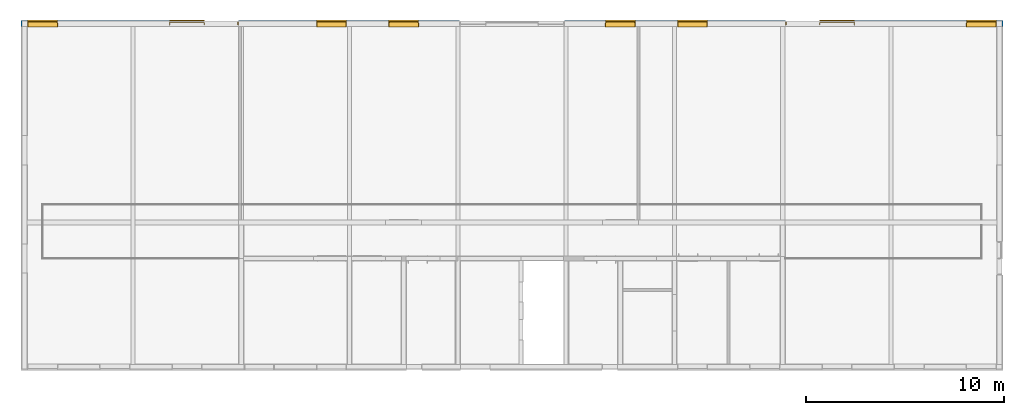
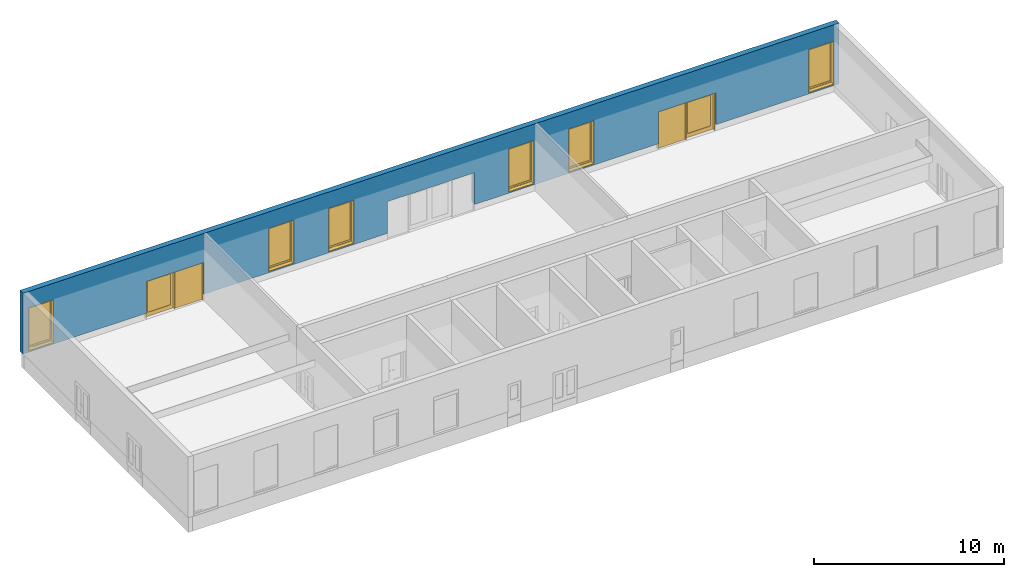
# One storey, part 12 of 22: 6 windows, 2 doors, 1 wall, 9 openings.
"""IFC4X3 building model written with IfcOpenShell, lengths in millimetres."""

from ifc_helpers import new_model, entity, si_unit, converted_unit, derived_unit, direction, frame, frame_2d, origin, origin_2d_with_axis, place, context, subcontext, project, spatial, polyline, rectangle, outline, extrude, faceted_brep, source, transform, mapped, material, layer, layer_set, constituent, constituent_set, type_object, type_shapes, element, fill, save


model = new_model("IFC4X3")

# Units and contexts
model_context = context("Model", 3, precision=0.01, world=origin(), true_north=direction((6.12303176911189e-17, 1.0)))
body_context = subcontext(model_context, "Body", "Model", "MODEL_VIEW")
ifc_project = project(units=[si_unit("LENGTHUNIT", "METRE", prefix="MILLI"), si_unit("AREAUNIT", "SQUARE_METRE"), si_unit("VOLUMEUNIT", "CUBIC_METRE"), converted_unit("PLANEANGLEUNIT", "DEGREE", entity("IfcPlaneAngleMeasure", 0.0174532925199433), si_unit("PLANEANGLEUNIT", "RADIAN"), dimensions=[0, 0, 0, 0, 0, 0, 0]), si_unit("MASSUNIT", "GRAM", prefix="KILO"), derived_unit("MASSDENSITYUNIT", [(si_unit("MASSUNIT", "GRAM", prefix="KILO"), 1), (si_unit("LENGTHUNIT", "METRE"), -3)]), derived_unit("IONCONCENTRATIONUNIT", [(si_unit("MASSUNIT", "GRAM", prefix="KILO"), 1), (si_unit("LENGTHUNIT", "METRE"), -3)]), derived_unit("MOMENTOFINERTIAUNIT", [(si_unit("LENGTHUNIT", "METRE"), 4)]), si_unit("TIMEUNIT", "SECOND"), si_unit("FREQUENCYUNIT", "HERTZ"), si_unit("THERMODYNAMICTEMPERATUREUNIT", "DEGREE_CELSIUS"), derived_unit("THERMALTRANSMITTANCEUNIT", [(si_unit("MASSUNIT", "GRAM", prefix="KILO"), 1), (si_unit("THERMODYNAMICTEMPERATUREUNIT", "KELVIN"), -1), (si_unit("TIMEUNIT", "SECOND"), -3)]), derived_unit("THERMALCONDUCTANCEUNIT", [(si_unit("MASSUNIT", "GRAM", prefix="KILO"), 1), (si_unit("THERMODYNAMICTEMPERATUREUNIT", "KELVIN"), -1), (si_unit("TIMEUNIT", "SECOND"), -3), (si_unit("LENGTHUNIT", "METRE"), 1)]), derived_unit("VOLUMETRICFLOWRATEUNIT", [(si_unit("LENGTHUNIT", "METRE", prefix="DECI"), 3), (si_unit("TIMEUNIT", "SECOND"), -1)]), derived_unit("MASSFLOWRATEUNIT", [(si_unit("MASSUNIT", "GRAM", prefix="KILO"), 1), (si_unit("TIMEUNIT", "SECOND"), -1)]), derived_unit("ROTATIONALFREQUENCYUNIT", [(si_unit("TIMEUNIT", "SECOND"), -1)]), si_unit("ELECTRICCURRENTUNIT", "AMPERE"), si_unit("ELECTRICVOLTAGEUNIT", "VOLT"), si_unit("POWERUNIT", "WATT"), si_unit("FORCEUNIT", "NEWTON", prefix="KILO"), si_unit("ILLUMINANCEUNIT", "LUX"), si_unit("LUMINOUSFLUXUNIT", "LUMEN"), si_unit("LUMINOUSINTENSITYUNIT", "CANDELA"), si_unit("ENERGYUNIT", "JOULE"), derived_unit("USERDEFINED", [(si_unit("MASSUNIT", "GRAM", prefix="KILO"), -1), (si_unit("LENGTHUNIT", "METRE"), -2), (si_unit("TIMEUNIT", "SECOND"), 3), (si_unit("LUMINOUSFLUXUNIT", "LUMEN"), 1)]), derived_unit("USERDEFINED", [(si_unit("MASSUNIT", "GRAM", prefix="KILO"), 1), (si_unit("TIMEUNIT", "SECOND"), -3), (si_unit("LENGTHUNIT", "METRE"), 3), (si_unit("ELECTRICCURRENTUNIT", "AMPERE"), -2)]), derived_unit("SOUNDPOWERUNIT", [(si_unit("MASSUNIT", "GRAM", prefix="KILO"), 1), (si_unit("TIMEUNIT", "SECOND"), -3), (si_unit("LENGTHUNIT", "METRE"), 2)]), derived_unit("SOUNDPRESSUREUNIT", [(si_unit("MASSUNIT", "GRAM", prefix="KILO"), 1), (si_unit("LENGTHUNIT", "METRE"), -1), (si_unit("TIMEUNIT", "SECOND"), -2)]), derived_unit("LINEARVELOCITYUNIT", [(si_unit("LENGTHUNIT", "METRE"), 1), (si_unit("TIMEUNIT", "SECOND"), -1)]), si_unit("PRESSUREUNIT", "PASCAL"), derived_unit("USERDEFINED", [(si_unit("MASSUNIT", "GRAM", prefix="KILO"), 1), (si_unit("LENGTHUNIT", "METRE"), -2), (si_unit("TIMEUNIT", "SECOND"), -2)]), derived_unit("LINEARFORCEUNIT", [(si_unit("MASSUNIT", "GRAM", prefix="KILO"), 1), (si_unit("TIMEUNIT", "SECOND"), -2)]), derived_unit("PLANARFORCEUNIT", [(si_unit("MASSUNIT", "GRAM", prefix="KILO"), 1), (si_unit("LENGTHUNIT", "METRE"), -1), (si_unit("TIMEUNIT", "SECOND"), -2)]), derived_unit("SPECIFICHEATCAPACITYUNIT", [(si_unit("THERMODYNAMICTEMPERATUREUNIT", "KELVIN"), -1), (si_unit("LENGTHUNIT", "METRE"), 2), (si_unit("TIMEUNIT", "SECOND"), -2)]), derived_unit("HEATFLUXDENSITYUNIT", [(si_unit("MASSUNIT", "GRAM", prefix="KILO"), 1), (si_unit("TIMEUNIT", "SECOND"), -3)]), derived_unit("HEATINGVALUEUNIT", [(si_unit("LENGTHUNIT", "METRE"), 2), (si_unit("TIMEUNIT", "SECOND"), -2)]), derived_unit("VAPORPERMEABILITYUNIT", [(si_unit("LENGTHUNIT", "METRE"), -1), (si_unit("TIMEUNIT", "SECOND"), 1)]), derived_unit("DYNAMICVISCOSITYUNIT", [(si_unit("MASSUNIT", "GRAM", prefix="KILO"), 1), (si_unit("TIMEUNIT", "SECOND"), -1), (si_unit("LENGTHUNIT", "METRE"), -1)]), derived_unit("THERMALEXPANSIONCOEFFICIENTUNIT", [(si_unit("THERMODYNAMICTEMPERATUREUNIT", "KELVIN"), -1)]), derived_unit("MODULUSOFELASTICITYUNIT", [(si_unit("MASSUNIT", "GRAM", prefix="KILO"), 1), (si_unit("LENGTHUNIT", "METRE"), -1), (si_unit("TIMEUNIT", "SECOND"), -2)]), derived_unit("ISOTHERMALMOISTURECAPACITYUNIT", [(si_unit("MASSUNIT", "GRAM", prefix="KILO"), -1), (si_unit("LENGTHUNIT", "METRE"), 3)]), derived_unit("MOISTUREDIFFUSIVITYUNIT", [(si_unit("TIMEUNIT", "SECOND"), -1), (si_unit("LENGTHUNIT", "METRE"), 2)]), derived_unit("AREADENSITYUNIT", [(si_unit("MASSUNIT", "GRAM", prefix="KILO"), 1), (si_unit("LENGTHUNIT", "METRE"), 2)]), derived_unit("MASSPERLENGTHUNIT", [(si_unit("MASSUNIT", "GRAM", prefix="KILO"), 1), (si_unit("LENGTHUNIT", "METRE"), -1)]), derived_unit("THERMALRESISTANCEUNIT", [(si_unit("MASSUNIT", "GRAM", prefix="KILO"), -1), (si_unit("TIMEUNIT", "SECOND"), 3), (si_unit("THERMODYNAMICTEMPERATUREUNIT", "KELVIN"), 1)]), derived_unit("ACCELERATIONUNIT", [(si_unit("LENGTHUNIT", "METRE"), 1), (si_unit("TIMEUNIT", "SECOND"), -2)]), derived_unit("ANGULARVELOCITYUNIT", [(si_unit("TIMEUNIT", "SECOND"), -1), (si_unit("PLANEANGLEUNIT", "RADIAN"), 1)]), derived_unit("LINEARSTIFFNESSUNIT", [(si_unit("MASSUNIT", "GRAM", prefix="KILO"), 1), (si_unit("TIMEUNIT", "SECOND"), -2)]), derived_unit("WARPINGCONSTANTUNIT", [(si_unit("LENGTHUNIT", "METRE"), 6)]), derived_unit("LINEARMOMENTUNIT", [(si_unit("MASSUNIT", "GRAM", prefix="KILO"), 1), (si_unit("LENGTHUNIT", "METRE"), 1), (si_unit("TIMEUNIT", "SECOND"), -2)]), derived_unit("TORQUEUNIT", [(si_unit("MASSUNIT", "GRAM", prefix="KILO"), 1), (si_unit("LENGTHUNIT", "METRE"), 2), (si_unit("TIMEUNIT", "SECOND"), -2)])], contexts=[model_context])

# Site, building, storey
site_placement = place(None, origin())
site = spatial("IfcSite", under=ifc_project, at=site_placement, Name="Default", CompositionType="ELEMENT")
building_placement = place(site_placement, origin())
building = spatial("IfcBuilding", under=site, at=building_placement, Name="事務所ビル", CompositionType="ELEMENT")
storey_placement = place(building_placement, origin())
storey = spatial("IfcBuildingStorey", under=building, at=storey_placement, Name="1FL", CompositionType="ELEMENT", Elevation=0.0)

# Wall, openings, windows, doors
ifc_material_1 = material(Name="<Unnamed>")
ifc_layer_1 = layer(ifc_material_1, 46.0, Name="Layer")
ifc_material_2 = material(Name="合板", Category="一般")
ifc_layer_2 = layer(ifc_material_2, 12.0, Name="合板", Category="一般")
ifc_material_3 = material(Name="天然木材", Category="一般")
ifc_layer_3 = layer(ifc_material_3, 240.0, Name="天然木材", Category="一般")
ifc_layer_4 = layer(ifc_material_2, 12.0, Name="合板", Category="一般")
ifc_material_4 = material(Name="せっこうボード", Category="一般")
ifc_layer_5 = layer(ifc_material_4, 15.0, Name="せっこうボード", Category="一般")
ifc_layer_set = layer_set([ifc_layer_1, ifc_layer_2, ifc_layer_3, ifc_layer_4, ifc_layer_5], Name="標準壁:外装材46_構造用合板12_木240_構造用合板12_GB-R15")
wall_type = type_object("IfcWallType", Name="標準壁:外装材46_構造用合板12_木240_構", PredefinedType="STANDARD", material=ifc_layer_set)
wall_placement = place(storey_placement, frame((-178.0, 17305.4999999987, 400.0)))
wall = element("IfcWall", 1, at=wall_placement, inside=storey, type_object=wall_type, material=ifc_layer_set, Name="標準壁:外装材46_構造用合板12_木240_構造用合板12_GB-R15", ObjectType="標準壁:外装材46_構造用合板12_木240_構造用合板12_GB-R15", PredefinedType="NOTDEFINED", context=body_context, shape_type="SweptSolid", body=[
    extrude(rectangle(XDim=49496.0, YDim=325.0, at=frame_2d((24748.0, 0.0), x_axis=(1.0, 0.0))), origin(), (0.0, 0.0, 1.0), 3900.0),
])
opening_1_placement = place(wall_placement, frame((178.0, -17305.4999999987, -400.0)))
element("IfcOpeningElement", 2, at=opening_1_placement, cuts=wall, Name="標準壁:外装材46_構造用合板12_木240_構造用合板12_GB-R15", PredefinedType="OPENING", context=body_context, shape_type="SweptSolid", body=[
    extrude(rectangle(XDim=2440.00000000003, YDim=5280.0, at=frame_2d((2.04636307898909e-12, 0.0), x_axis=(0.0, 1.0))), frame((24570.0, 15631.0, 1220.0), z_axis=(0.0, 1.0, 0.0), x_axis=(-1.0, 0.0, 0.0)), (0.0, 0.0, 1.0), 3048.0),
])
opening_2_placement = place(wall_placement, frame((178.0, -17305.4999999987, 120.0)))
opening_2 = element("IfcOpeningElement", 3, at=opening_2_placement, cuts=wall, Name="標準壁:外装材46_構造用合板12_木240_構造用合板12_GB-R15", PredefinedType="OPENING", context=body_context, shape_type="Brep", body=[
    faceted_brep([(145.0, 17133.0, -35.0), (145.0, 17133.0, 2735.0), (145.0, 17338.0, 2735.0), (145.0, 17338.0, -35.0), (1675.0, 17133.0, -35.0), (1675.0, 17338.0, -35.0), (1675.0, 17338.0, 2735.0), (1675.0, 17133.0, 2735.0), (1665.0, 17338.0, -35.0), (1665.0, 17338.0, 2730.0), (155.0, 17338.0, 2730.0), (155.0, 17338.0, -35.0), (155.0, 17408.0, 2730.0), (155.0, 17408.0, -115.769230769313), (155.0, 17338.0, -105.0), (1665.0, 17338.0, -105.0), (1665.0, 17408.0, -115.769230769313), (1665.0, 17408.0, 2730.0), (175.0, 17408.0, -115.769230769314), (175.0, 17468.0, -125.0), (1645.0, 17468.0, -125.0), (1645.0, 17408.0, -115.769230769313), (1645.0, 17408.0, 2710.0), (175.0, 17408.0, 2710.0), (175.0, 17468.0, 2710.0), (1645.0, 17468.0, 2710.0)], [[[0, 1, 2, 3]], [[4, 5, 6, 7]], [[1, 0, 4, 7]], [[2, 1, 7, 6]], [[3, 2, 6, 5, 8, 9, 10, 11]], [[0, 3, 11, 8, 5, 4]], [[10, 12, 13, 14, 11]], [[15, 16, 17, 9, 8]], [[14, 13, 18, 19, 20, 21, 16, 15]], [[13, 12, 17, 16, 21, 22, 23, 18]], [[23, 24, 19, 18]], [[21, 20, 25, 22]], [[19, 24, 25, 20]], [[24, 23, 22, 25]], [[12, 10, 9, 17]], [[14, 15, 8, 11]]]),
])
opening_3_placement = place(wall_placement, frame((178.0, -17305.4999999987, 120.0)))
opening_3 = element("IfcOpeningElement", 4, at=opening_3_placement, cuts=wall, Name="標準壁:外装材46_構造用合板12_木240_構造用合板12_GB-R15", PredefinedType="OPENING", context=body_context, shape_type="Brep", body=[
    faceted_brep([(14705.0, 17133.0, -35.0), (14705.0, 17133.0, 2735.0), (14705.0, 17338.0, 2735.0), (14705.0, 17338.0, -35.0), (16235.0, 17133.0, -35.0), (16235.0, 17338.0, -35.0), (16235.0, 17338.0, 2735.0), (16235.0, 17133.0, 2735.0), (14715.0, 17338.0, -35.0), (16225.0, 17338.0, -35.0), (16225.0, 17338.0, 2730.0), (14715.0, 17338.0, 2730.0), (14715.0, 17408.0, 2730.0), (14715.0, 17408.0, -115.769230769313), (14715.0, 17338.0, -105.0), (16225.0, 17338.0, -105.0), (16225.0, 17408.0, -115.769230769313), (16225.0, 17408.0, 2730.0), (14735.0, 17408.0, -115.769230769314), (14735.0, 17468.0, -125.0), (16205.0, 17468.0, -125.0), (16205.0, 17408.0, -115.769230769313), (16205.0, 17408.0, 2710.0), (14735.0, 17408.0, 2710.0), (14735.0, 17468.0, 2710.0), (16205.0, 17468.0, 2710.0)], [[[0, 1, 2, 3]], [[4, 5, 6, 7]], [[0, 3, 8, 9, 5, 4]], [[3, 2, 6, 5, 9, 10, 11, 8]], [[2, 1, 7, 6]], [[1, 0, 4, 7]], [[11, 12, 13, 14, 8]], [[15, 16, 17, 10, 9]], [[14, 13, 18, 19, 20, 21, 16, 15]], [[13, 12, 17, 16, 21, 22, 23, 18]], [[12, 11, 10, 17]], [[14, 15, 9, 8]], [[23, 24, 19, 18]], [[21, 20, 25, 22]], [[19, 24, 25, 20]], [[24, 23, 22, 25]]]),
])
opening_4_placement = place(wall_placement, frame((178.0, -17305.4999999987, 120.0)))
opening_4 = element("IfcOpeningElement", 5, at=opening_4_placement, cuts=wall, Name="標準壁:外装材46_構造用合板12_木240_構造用合板12_GB-R15", PredefinedType="OPENING", context=body_context, shape_type="Brep", body=[
    faceted_brep([(18345.0, 17133.0, -35.0), (18345.0, 17133.0, 2735.0), (18345.0, 17338.0, 2735.0), (18345.0, 17338.0, -35.0), (19875.0, 17133.0, -35.0), (19875.0, 17338.0, -35.0), (19875.0, 17338.0, 2735.0), (19875.0, 17133.0, 2735.0), (18355.0, 17338.0, -35.0), (19865.0, 17338.0, -35.0), (19865.0, 17338.0, 2730.0), (18355.0, 17338.0, 2730.0), (18355.0, 17408.0, 2730.0), (18355.0, 17408.0, -115.769230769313), (18355.0, 17338.0, -105.0), (19865.0, 17338.0, -105.0), (19865.0, 17408.0, -115.769230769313), (19865.0, 17408.0, 2730.0), (18375.0, 17408.0, -115.769230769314), (18375.0, 17468.0, -125.0), (19845.0, 17468.0, -125.0), (19845.0, 17408.0, -115.769230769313), (19845.0, 17408.0, 2710.0), (18375.0, 17408.0, 2710.0), (18375.0, 17468.0, 2710.0), (19845.0, 17468.0, 2710.0)], [[[0, 1, 2, 3]], [[4, 5, 6, 7]], [[0, 3, 8, 9, 5, 4]], [[3, 2, 6, 5, 9, 10, 11, 8]], [[2, 1, 7, 6]], [[1, 0, 4, 7]], [[11, 12, 13, 14, 8]], [[15, 16, 17, 10, 9]], [[14, 13, 18, 19, 20, 21, 16, 15]], [[13, 12, 17, 16, 21, 22, 23, 18]], [[12, 11, 10, 17]], [[14, 15, 9, 8]], [[23, 24, 19, 18]], [[21, 20, 25, 22]], [[19, 24, 25, 20]], [[24, 23, 22, 25]]]),
])
opening_5_placement = place(wall_placement, frame((178.0, -17305.4999999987, 120.0)))
opening_5 = element("IfcOpeningElement", 6, at=opening_5_placement, cuts=wall, Name="標準壁:外装材46_構造用合板12_木240_構造用合板12_GB-R15", PredefinedType="OPENING", context=body_context, shape_type="Brep", body=[
    faceted_brep([(29265.0, 17133.0, -35.0), (29265.0, 17133.0, 2735.0), (29265.0, 17338.0, 2735.0), (29265.0, 17338.0, -35.0), (30795.0, 17133.0, -35.0), (30795.0, 17338.0, -35.0), (30795.0, 17338.0, 2735.0), (30795.0, 17133.0, 2735.0), (29275.0, 17338.0, -35.0), (30785.0, 17338.0, -35.0), (30785.0, 17338.0, 2730.0), (29275.0, 17338.0, 2730.0), (29275.0, 17408.0, 2730.0), (29275.0, 17408.0, -115.769230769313), (29275.0, 17338.0, -105.0), (30785.0, 17338.0, -105.0), (30785.0, 17408.0, -115.769230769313), (30785.0, 17408.0, 2730.0), (29295.0, 17408.0, -115.769230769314), (29295.0, 17468.0, -125.0), (30765.0, 17468.0, -125.0), (30765.0, 17408.0, -115.769230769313), (30765.0, 17408.0, 2710.0), (29295.0, 17408.0, 2710.0), (29295.0, 17468.0, 2710.0), (30765.0, 17468.0, 2710.0)], [[[0, 1, 2, 3]], [[4, 5, 6, 7]], [[0, 3, 8, 9, 5, 4]], [[3, 2, 6, 5, 9, 10, 11, 8]], [[2, 1, 7, 6]], [[1, 0, 4, 7]], [[11, 12, 13, 14, 8]], [[15, 16, 17, 10, 9]], [[14, 13, 18, 19, 20, 21, 16, 15]], [[13, 12, 17, 16, 21, 22, 23, 18]], [[12, 11, 10, 17]], [[14, 15, 9, 8]], [[23, 24, 19, 18]], [[21, 20, 25, 22]], [[19, 24, 25, 20]], [[24, 23, 22, 25]]]),
])
opening_6_placement = place(wall_placement, frame((178.0, -17305.4999999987, 120.0)))
opening_6 = element("IfcOpeningElement", 7, at=opening_6_placement, cuts=wall, Name="標準壁:外装材46_構造用合板12_木240_構造用合板12_GB-R15", PredefinedType="OPENING", context=body_context, shape_type="Brep", body=[
    faceted_brep([(32905.0, 17133.0, -35.0), (32905.0, 17133.0, 2735.0), (32905.0, 17338.0, 2735.0), (32905.0, 17338.0, -35.0), (34435.0, 17133.0, -35.0), (34435.0, 17338.0, -35.0), (34435.0, 17338.0, 2735.0), (34435.0, 17133.0, 2735.0), (32915.0, 17338.0, -35.0), (34425.0, 17338.0, -35.0), (34425.0, 17338.0, 2730.0), (32915.0, 17338.0, 2730.0), (32915.0, 17408.0, 2730.0), (32915.0, 17408.0, -115.769230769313), (32915.0, 17338.0, -105.0), (34425.0, 17338.0, -105.0), (34425.0, 17408.0, -115.769230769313), (34425.0, 17408.0, 2730.0), (32935.0, 17408.0, -115.769230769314), (32935.0, 17468.0, -125.0), (34405.0, 17468.0, -125.0), (34405.0, 17408.0, -115.769230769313), (34405.0, 17408.0, 2710.0), (32935.0, 17408.0, 2710.0), (32935.0, 17468.0, 2710.0), (34405.0, 17468.0, 2710.0)], [[[0, 1, 2, 3]], [[4, 5, 6, 7]], [[0, 3, 8, 9, 5, 4]], [[3, 2, 6, 5, 9, 10, 11, 8]], [[2, 1, 7, 6]], [[1, 0, 4, 7]], [[11, 12, 13, 14, 8]], [[15, 16, 17, 10, 9]], [[14, 13, 18, 19, 20, 21, 16, 15]], [[13, 12, 17, 16, 21, 22, 23, 18]], [[12, 11, 10, 17]], [[14, 15, 9, 8]], [[23, 24, 19, 18]], [[21, 20, 25, 22]], [[19, 24, 25, 20]], [[24, 23, 22, 25]]]),
])
opening_7_placement = place(wall_placement, frame((178.0, -17305.4999999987, 120.0)))
opening_7 = element("IfcOpeningElement", 8, at=opening_7_placement, cuts=wall, Name="標準壁:外装材46_構造用合板12_木240_構造用合板12_GB-R15", PredefinedType="OPENING", context=body_context, shape_type="Brep", body=[
    faceted_brep([(47465.0, 17133.0, -35.0), (47465.0, 17133.0, 2735.0), (47465.0, 17338.0, 2735.0), (47465.0, 17338.0, -35.0), (48995.0, 17133.0, -35.0), (48995.0, 17338.0, -35.0), (48995.0, 17338.0, 2735.0), (48995.0, 17133.0, 2735.0), (47475.0, 17338.0, -35.0), (48985.0, 17338.0, -35.0), (48985.0, 17338.0, 2730.0), (47475.0, 17338.0, 2730.0), (47475.0, 17408.0, 2730.0), (47475.0, 17408.0, -115.769230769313), (47475.0, 17338.0, -105.0), (48985.0, 17338.0, -105.0), (48985.0, 17408.0, -115.769230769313), (48985.0, 17408.0, 2730.0), (47495.0, 17408.0, -115.769230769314), (47495.0, 17468.0, -125.0), (48965.0, 17468.0, -125.0), (48965.0, 17408.0, -115.769230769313), (48965.0, 17408.0, 2710.0), (47495.0, 17408.0, 2710.0), (47495.0, 17468.0, 2710.0), (48965.0, 17468.0, 2710.0)], [[[0, 1, 2, 3]], [[4, 5, 6, 7]], [[0, 3, 8, 9, 5, 4]], [[3, 2, 6, 5, 9, 10, 11, 8]], [[2, 1, 7, 6]], [[1, 0, 4, 7]], [[11, 12, 13, 14, 8]], [[15, 16, 17, 10, 9]], [[14, 13, 18, 19, 20, 21, 16, 15]], [[13, 12, 17, 16, 21, 22, 23, 18]], [[12, 11, 10, 17]], [[14, 15, 9, 8]], [[23, 24, 19, 18]], [[21, 20, 25, 22]], [[19, 24, 25, 20]], [[24, 23, 22, 25]]]),
])
opening_8_placement = place(wall_placement, frame((7478.0, -162.499999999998, -400.0)))
opening_8 = element("IfcOpeningElement", 9, at=opening_8_placement, cuts=wall, Name="自動ドア - 片引き - 框:自動ドア - 片引き - 框:1", PredefinedType="OPENING", context=body_context, shape_type="SweptSolid", body=[
    extrude(rectangle(XDim=2440.00000000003, YDim=3480.0, at=frame_2d((1220.00000000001, 1740.0), x_axis=(1.0, 0.0))), frame((0.0, 0.0, 0.0), z_axis=(0.0, 1.0, 0.0), x_axis=(0.0, 0.0, 1.0)), (0.0, 0.0, 1.0), 325.0),
])
opening_9_placement = place(wall_placement, frame((38538.0, -162.499999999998, -400.0)))
opening_9 = element("IfcOpeningElement", 10, at=opening_9_placement, cuts=wall, Name="自動ドア - 片引き - 框:自動ドア - 片引き - 框:1", PredefinedType="OPENING", context=body_context, shape_type="SweptSolid", body=[
    extrude(rectangle(XDim=2440.00000000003, YDim=3480.0, at=frame_2d((1220.00000000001, 1740.0), x_axis=(1.0, 0.0))), frame((0.0, 0.0, 0.0), z_axis=(0.0, 1.0, 0.0), x_axis=(0.0, 0.0, 1.0)), (0.0, 0.0, 1.0), 325.0),
])
ifc_material_5 = material(Name="ガラス - 透明", Category="未設定")
ifc_constituent_1 = constituent(ifc_material_5, Name="ガラス - 透明", Category="未設定")
ifc_material_6 = material(Name="金属 - アルミニウム", Category="未設定")
ifc_constituent_2 = constituent(ifc_material_6, Name="金属 - アルミニウム", Category="未設定")
ifc_material_7 = material(Name="塗装 - 白", Category="未設定")
ifc_constituent_3 = constituent(ifc_material_7, Name="塗装 - 白", Category="未設定")
ifc_constituent_set_1 = constituent_set(constituents=[ifc_constituent_1, ifc_constituent_2, ifc_constituent_3])
ifc_constituent_4 = constituent(ifc_material_5, Name="ガラス", Category="未設定")
ifc_constituent_5 = constituent(ifc_material_6, Name="フレーム/マリオン", Category="未設定")
ifc_constituent_6 = constituent(ifc_material_7, Name="縁飾り", Category="未設定")
ifc_constituent_set_2 = constituent_set(constituents=[ifc_constituent_4, ifc_constituent_5, ifc_constituent_6])
window_type = type_object("IfcWindowType", Name="鋼製_一般枠_嵌殺し:1450x2700", ParameterTakesPrecedence=False, PartitioningType="NOTDEFINED", PredefinedType="WINDOW", material=ifc_constituent_set_2)
shared_shape_1 = source(origin(), body_context, "Body", "SweptSolid", [
    extrude(rectangle(XDim=1370.0, YDim=5.0, at=frame_2d((0.0, 8.43769498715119e-15), x_axis=(1.0, 0.0))), frame((765.0, 246.500000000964, 215.0)), (0.0, 0.0, 1.0), 2570.0),
    extrude(outline(polyline([(-1350.0, -725.0), (1350.0, -725.0), (1350.0, 725.0), (-1350.0, 725.0), (-1350.0, -725.0)]), holes=[polyline([(-1310.0, -685.0), (-1310.0, 685.0), (1260.0, 685.0), (1260.0, -685.0), (-1310.0, -685.0)])]), frame((765.0, 254.0, 1475.0), z_axis=(0.0, -1.0, 0.0), x_axis=(0.0, 0.0, -1.0)), (0.0, 0.0, 1.0), 30.0),
    extrude(rectangle(XDim=1530.0, YDim=205.000000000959, at=frame_2d((-5.6843418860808e-14, -1.4210854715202e-14), x_axis=(1.0, 0.0))), frame((765.0, 82.5000000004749, 90.0)), (0.0, 0.0, 1.0), 25.0),
    extrude(outline(polyline([(-45.5790663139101, -2.91319240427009), (48.362404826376, -2.91319240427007), (56.8783455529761, 15.183181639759), (52.3555656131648, 17.311548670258), (45.1909815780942, 2.08680759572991), (-48.7520940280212, 2.08680759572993), (-56.4901153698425, -14.3564877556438), (-51.9660218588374, -16.4854729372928), (-45.5790663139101, -2.91319240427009)])), frame((1520.0, 285.000362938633, 37.9566576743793), z_axis=(-1.0, 0.0, 0.0), x_axis=(0.0, 0.904818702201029, -0.425797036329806)), (0.0, 0.0, 1.0), 1510.0),
    extrude(outline(polyline([(740.0, -1378.75), (765.0, -1378.75), (765.0, 1391.25), (-765.0, 1391.25), (-765.0, -1378.75), (-740.0, -1378.75), (-740.0, 1366.25), (740.0, 1366.25), (740.0, -1378.75)])), frame((765.0, 185.0, 1468.75000000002), z_axis=(0.0, -1.0, 0.0), x_axis=(1.0, 0.0, 0.0)), (0.0, 0.0, 1.0), 205.000000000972),
    extrude(outline(polyline([(725.0, -1382.5), (755.0, -1382.5), (755.0, 1397.5), (-755.0, 1397.5), (-755.0, -1382.5), (-725.0, -1382.5), (-725.0, 1367.5), (725.0, 1367.5), (725.0, -1382.5)])), frame((765.0, 255.0, 1457.50000000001), z_axis=(0.0, -1.0, 0.0), x_axis=(1.0, 0.0, 0.0)), (0.0, 0.0, 1.0), 69.9999999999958),
    extrude(outline(polyline([(-22.6666666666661, -35.0), (27.333333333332, -35.0), (18.0, 35.0), (-22.6666666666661, 35.0), (-22.6666666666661, -35.0)])), frame((1490.0, 220.0, 97.6666666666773), z_axis=(-1.0, 0.0, 0.0), x_axis=(0.0, 0.0, 1.0)), (0.0, 0.0, 1.0), 1450.0),
])
type_shapes(window_type, [shared_shape_1])
window_1_placement = place(opening_2_placement, frame((145.0, 17153.0, -125.0)))
window_1 = element("IfcWindow", 11, at=window_1_placement, inside=storey, type_object=window_type, material=ifc_constituent_set_1, Name="鋼製_一般枠_嵌殺し:1450x2700", ObjectType="鋼製_一般枠_嵌殺し:1450x2700", OverallHeight=2860.00000000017, OverallWidth=1532.0, PartitioningType="NOTDEFINED", PredefinedType="WINDOW", context=body_context, shape_type="MappedRepresentation", body=[
    mapped(shared_shape_1, transform((0.0, 0.0, 0.0), scale=1.0)),
])
fill(opening_2, window_1)
ifc_constituent_7 = constituent(ifc_material_5, Name="ガラス - 透明", Category="未設定")
ifc_constituent_8 = constituent(ifc_material_6, Name="金属 - アルミニウム", Category="未設定")
ifc_constituent_9 = constituent(ifc_material_7, Name="塗装 - 白", Category="未設定")
ifc_constituent_set_3 = constituent_set(constituents=[ifc_constituent_7, ifc_constituent_8, ifc_constituent_9])
window_2_placement = place(opening_3_placement, frame((14705.0, 17153.0, -125.0)))
window_2 = element("IfcWindow", 12, at=window_2_placement, inside=storey, type_object=window_type, material=ifc_constituent_set_3, Name="鋼製_一般枠_嵌殺し:1450x2700", ObjectType="鋼製_一般枠_嵌殺し:1450x2700", OverallHeight=2860.00000000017, OverallWidth=1532.0, PartitioningType="NOTDEFINED", PredefinedType="WINDOW", context=body_context, shape_type="MappedRepresentation", body=[
    mapped(shared_shape_1, transform((0.0, 0.0, 0.0), scale=1.0)),
])
fill(opening_3, window_2)
ifc_constituent_10 = constituent(ifc_material_5, Name="ガラス - 透明", Category="未設定")
ifc_constituent_11 = constituent(ifc_material_6, Name="金属 - アルミニウム", Category="未設定")
ifc_constituent_12 = constituent(ifc_material_7, Name="塗装 - 白", Category="未設定")
ifc_constituent_set_4 = constituent_set(constituents=[ifc_constituent_10, ifc_constituent_11, ifc_constituent_12])
window_3_placement = place(opening_4_placement, frame((18345.0, 17153.0, -125.0)))
window_3 = element("IfcWindow", 13, at=window_3_placement, inside=storey, type_object=window_type, material=ifc_constituent_set_4, Name="鋼製_一般枠_嵌殺し:1450x2700", ObjectType="鋼製_一般枠_嵌殺し:1450x2700", OverallHeight=2860.00000000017, OverallWidth=1532.0, PartitioningType="NOTDEFINED", PredefinedType="WINDOW", context=body_context, shape_type="MappedRepresentation", body=[
    mapped(shared_shape_1, transform((0.0, 0.0, 0.0), scale=1.0)),
])
fill(opening_4, window_3)
ifc_constituent_13 = constituent(ifc_material_5, Name="ガラス - 透明", Category="未設定")
ifc_constituent_14 = constituent(ifc_material_6, Name="金属 - アルミニウム", Category="未設定")
ifc_constituent_15 = constituent(ifc_material_7, Name="塗装 - 白", Category="未設定")
ifc_constituent_set_5 = constituent_set(constituents=[ifc_constituent_13, ifc_constituent_14, ifc_constituent_15])
window_4_placement = place(opening_5_placement, frame((29265.0, 17153.0, -125.0)))
window_4 = element("IfcWindow", 14, at=window_4_placement, inside=storey, type_object=window_type, material=ifc_constituent_set_5, Name="鋼製_一般枠_嵌殺し:1450x2700", ObjectType="鋼製_一般枠_嵌殺し:1450x2700", OverallHeight=2860.00000000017, OverallWidth=1532.0, PartitioningType="NOTDEFINED", PredefinedType="WINDOW", context=body_context, shape_type="MappedRepresentation", body=[
    mapped(shared_shape_1, transform((0.0, 0.0, 0.0), scale=1.0)),
])
fill(opening_5, window_4)
ifc_constituent_16 = constituent(ifc_material_5, Name="ガラス - 透明", Category="未設定")
ifc_constituent_17 = constituent(ifc_material_6, Name="金属 - アルミニウム", Category="未設定")
ifc_constituent_18 = constituent(ifc_material_7, Name="塗装 - 白", Category="未設定")
ifc_constituent_set_6 = constituent_set(constituents=[ifc_constituent_16, ifc_constituent_17, ifc_constituent_18])
window_5_placement = place(opening_6_placement, frame((32905.0, 17153.0, -125.0)))
window_5 = element("IfcWindow", 15, at=window_5_placement, inside=storey, type_object=window_type, material=ifc_constituent_set_6, Name="鋼製_一般枠_嵌殺し:1450x2700", ObjectType="鋼製_一般枠_嵌殺し:1450x2700", OverallHeight=2860.00000000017, OverallWidth=1532.0, PartitioningType="NOTDEFINED", PredefinedType="WINDOW", context=body_context, shape_type="MappedRepresentation", body=[
    mapped(shared_shape_1, transform((0.0, 0.0, 0.0), scale=1.0)),
])
fill(opening_6, window_5)
ifc_constituent_19 = constituent(ifc_material_5, Name="ガラス - 透明", Category="未設定")
ifc_constituent_20 = constituent(ifc_material_6, Name="金属 - アルミニウム", Category="未設定")
ifc_constituent_21 = constituent(ifc_material_7, Name="塗装 - 白", Category="未設定")
ifc_constituent_set_7 = constituent_set(constituents=[ifc_constituent_19, ifc_constituent_20, ifc_constituent_21])
window_6_placement = place(opening_7_placement, frame((47465.0, 17153.0, -125.0)))
window_6 = element("IfcWindow", 16, at=window_6_placement, inside=storey, type_object=window_type, material=ifc_constituent_set_7, Name="鋼製_一般枠_嵌殺し:1450x2700", ObjectType="鋼製_一般枠_嵌殺し:1450x2700", OverallHeight=2860.00000000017, OverallWidth=1532.0, PartitioningType="NOTDEFINED", PredefinedType="WINDOW", context=body_context, shape_type="MappedRepresentation", body=[
    mapped(shared_shape_1, transform((0.0, 0.0, 0.0), scale=1.0)),
])
fill(opening_7, window_6)
ifc_constituent_22 = constituent(ifc_material_1, Name="<Unnamed>")
ifc_material_8 = material(Name="ガラス", Category="ガラス")
ifc_constituent_23 = constituent(ifc_material_8, Name="ガラス", Category="ガラス")
ifc_constituent_set_8 = constituent_set(constituents=[ifc_constituent_22, ifc_constituent_23])
ifc_constituent_24 = constituent(ifc_material_1, Name="パネル")
ifc_constituent_25 = constituent(ifc_material_8, Name="ガラス", Category="ガラス")
ifc_constituent_26 = constituent(ifc_material_1, Name="フレーム/マリオン")
ifc_constituent_set_9 = constituent_set(constituents=[ifc_constituent_24, ifc_constituent_25, ifc_constituent_26])
door_type_1 = type_object("IfcDoorType", Name="自動ドア - 片引き - 框:自動ドア - 片引き - 框", OperationType="NOTDEFINED", ParameterTakesPrecedence=False, PredefinedType="DOOR", material=ifc_constituent_set_9)
shared_shape_2 = source(origin(), body_context, "Body", "SweptSolid", [
    extrude(rectangle(XDim=39.9999999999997, YDim=124.999999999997, at=frame_2d((-6.75015598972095e-14, 0.0), x_axis=(1.0, 0.0))), frame((3460.0, 120.0, 0.0)), (0.0, 0.0, 1.0), 2400.0),
    extrude(rectangle(XDim=1660.00000000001, YDim=4.0, at=frame_2d((5.6843418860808e-14, 2.22044604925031e-15), x_axis=(1.0, 0.0))), frame((4310.0, 120.0, 0.0), z_axis=(0.0, 0.0, 1.0), x_axis=(-1.0, 0.0, 0.0)), (0.0, 0.0, 1.0), 100.0),
    extrude(rectangle(XDim=1660.00000000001, YDim=4.0, at=frame_2d((5.6843418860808e-14, 2.22044604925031e-15), x_axis=(1.0, 0.0))), frame((4310.0, 120.0, 100.0), z_axis=(0.0, 0.0, 1.0), x_axis=(-1.0, 0.0, 0.0)), (0.0, 0.0, 1.0), 2300.0),
    extrude(outline(polyline([(1700.0, -1210.0), (1740.0, -1210.0), (1740.0, 1230.0), (-1740.0, 1230.0), (-1740.0, -1210.0), (-1700.0, -1210.0), (-1700.0, 1190.0), (1700.0, 1190.0), (1700.0, -1210.0)])), frame((3440.0, 227.5, 1210.0), z_axis=(0.0, -1.0, 0.0), x_axis=(1.0, 0.0, 0.0)), (0.0, 0.0, 1.0), 169.999999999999),
    extrude(rectangle(XDim=1400.00000000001, YDim=4.00000000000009, at=frame_2d((0.0, 4.44089209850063e-15), x_axis=(1.0, 0.0))), frame((2590.0, 207.499999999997, 260.0), z_axis=(0.0, 0.0, 1.0), x_axis=(-1.0, 0.0, 0.0)), (0.0, 0.0, 1.0), 1989.99999999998),
    extrude(outline(polyline([(-850.0, -1195.0), (850.0, -1195.0), (850.0, 1195.0), (-850.0, 1195.0), (-850.0, -1195.0)]), holes=[polyline([(-700.0, 1045.0), (700.0, 1045.0), (700.0, -945.0), (-700.0, -945.0), (-700.0, 1045.0)])]), frame((2590.0, 227.499999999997, 1205.0), z_axis=(0.0, -1.0, 0.0), x_axis=(1.0, 0.0, 0.0)), (0.0, 0.0, 1.0), 40.0),
    extrude(rectangle(XDim=45.0000000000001, YDim=1780.0, at=origin_2d_with_axis()), frame((2590.0, 292.500000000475, -15.0), z_axis=(0.0, 0.0, 1.0), x_axis=(0.0, -1.0, 0.0)), (0.0, 0.0, 1.0), 20.0),
])
type_shapes(door_type_1, [shared_shape_2])
door_1_placement = place(opening_8_placement, frame((-1700.0, 20.0, 0.0)))
door_1 = element("IfcDoor", 17, at=door_1_placement, inside=storey, type_object=door_type_1, material=ifc_constituent_set_8, Name="自動ドア - 片引き - 框:自動ドア - 片引き - 框", ObjectType="自動ドア - 片引き - 框:自動ドア - 片引き - 框", OperationType="NOTDEFINED", OverallHeight=2440.00000000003, OverallWidth=3480.0, PredefinedType="DOOR", context=body_context, shape_type="MappedRepresentation", body=[
    mapped(shared_shape_2, transform((0.0, 0.0, 0.0), scale=1.0)),
])
fill(opening_8, door_1)
ifc_constituent_27 = constituent(ifc_material_1, Name="<Unnamed>")
ifc_constituent_28 = constituent(ifc_material_8, Name="ガラス", Category="ガラス")
ifc_constituent_set_10 = constituent_set(constituents=[ifc_constituent_27, ifc_constituent_28])
ifc_constituent_29 = constituent(ifc_material_1, Name="パネル")
ifc_constituent_30 = constituent(ifc_material_8, Name="ガラス", Category="ガラス")
ifc_constituent_31 = constituent(ifc_material_1, Name="フレーム/マリオン")
ifc_constituent_set_11 = constituent_set(constituents=[ifc_constituent_29, ifc_constituent_30, ifc_constituent_31])
door_type_2 = type_object("IfcDoorType", Name="自動ドア - 片引き - 框:自動ドア - 片引き - 框", OperationType="NOTDEFINED", ParameterTakesPrecedence=False, PredefinedType="DOOR", material=ifc_constituent_set_11)
shared_shape_3 = source(origin(), body_context, "Body", "SweptSolid", [
    extrude(rectangle(XDim=124.999999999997, YDim=39.9999999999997, at=frame_2d((0.0, -6.92779167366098e-14), x_axis=(1.0, 0.0))), frame((1720.0, 140.0, 0.0), z_axis=(0.0, 0.0, 1.0), x_axis=(0.0, 1.0, 0.0)), (0.0, 0.0, 1.0), 2400.0),
    extrude(rectangle(XDim=4.0, YDim=1660.00000000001, at=frame_2d((-2.22044604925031e-15, 0.0), x_axis=(1.0, 0.0))), frame((870.0, 140.0, 0.0), z_axis=(0.0, 0.0, 1.0), x_axis=(0.0, -1.0, 0.0)), (0.0, 0.0, 1.0), 100.0),
    extrude(rectangle(XDim=4.0, YDim=1660.00000000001, at=frame_2d((-2.22044604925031e-15, 0.0), x_axis=(1.0, 0.0))), frame((870.0, 140.0, 100.0), z_axis=(0.0, 0.0, 1.0), x_axis=(0.0, -1.0, 0.0)), (0.0, 0.0, 1.0), 2300.0),
    extrude(outline(polyline([(-1210.0, -1740.0), (1230.0, -1740.0), (1230.0, 1740.0), (-1210.0, 1740.0), (-1210.0, 1700.0), (1190.0, 1700.0), (1190.0, -1700.0), (-1210.0, -1700.0), (-1210.0, -1740.0)])), frame((1740.0, 77.5000000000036, 1210.0), z_axis=(0.0, 1.0, 0.0), x_axis=(0.0, 0.0, 1.0)), (0.0, 0.0, 1.0), 169.999999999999),
    extrude(rectangle(XDim=4.00000000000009, YDim=1400.00000000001, at=frame_2d((-4.44089209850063e-15, 0.0), x_axis=(1.0, 0.0))), frame((2590.0, 227.5, 260.0), z_axis=(0.0, 0.0, 1.0), x_axis=(0.0, -1.0, 0.0)), (0.0, 0.0, 1.0), 1989.99999999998),
    extrude(outline(polyline([(-850.0, -1195.0), (850.0, -1195.0), (850.0, 1195.0), (-850.0, 1195.0), (-850.0, -1195.0)]), holes=[polyline([(-700.0, 1045.0), (700.0, 1045.0), (700.0, -945.0), (-700.0, -945.0), (-700.0, 1045.0)])]), frame((2590.0, 207.5, 1205.0), z_axis=(0.0, 1.0, 0.0), x_axis=(-1.0, 0.0, 0.0)), (0.0, 0.0, 1.0), 40.0),
    extrude(rectangle(XDim=1780.0, YDim=45.0000000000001, at=frame_2d((0.0, 1.77635683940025e-14), x_axis=(1.0, 0.0))), frame((2590.0, 312.500000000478, -15.0), z_axis=(0.0, 0.0, 1.0), x_axis=(-1.0, 0.0, 0.0)), (0.0, 0.0, 1.0), 20.0),
])
type_shapes(door_type_2, [shared_shape_3])
door_2_placement = place(opening_9_placement, frame((0.0, 1.29875843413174e-09, 0.0)))
door_2 = element("IfcDoor", 18, at=door_2_placement, inside=storey, type_object=door_type_2, material=ifc_constituent_set_10, Name="自動ドア - 片引き - 框:自動ドア - 片引き - 框", ObjectType="自動ドア - 片引き - 框:自動ドア - 片引き - 框", OperationType="NOTDEFINED", OverallHeight=2440.00000000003, OverallWidth=3480.0, PredefinedType="DOOR", context=body_context, shape_type="MappedRepresentation", body=[
    mapped(shared_shape_3, transform((0.0, 0.0, 0.0), scale=1.0)),
])
fill(opening_9, door_2)

save(model, "model.ifc")
